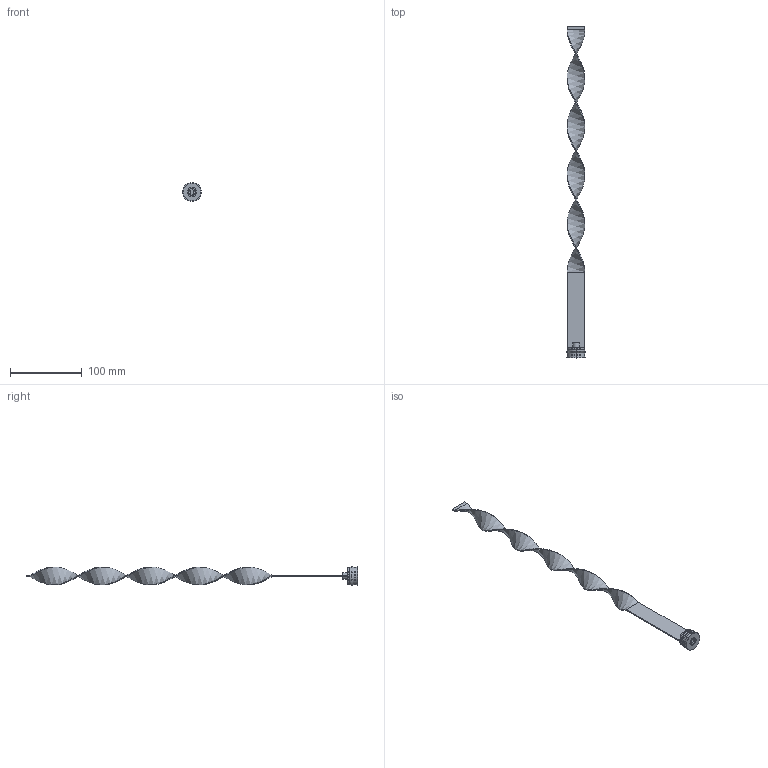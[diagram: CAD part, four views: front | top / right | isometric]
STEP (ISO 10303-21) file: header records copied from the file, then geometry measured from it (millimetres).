
FILE_DESCRIPTION (( 'STEP AP203' ), '1' );
FILE_NAME ('RLS-25Fx450.STEP', '2015-12-10T15:37:07', ( 'Balzi' ), ( '' ), 'SwSTEP 2.0', 'SolidWorks 2015', '' );
FILE_SCHEMA (( 'CONFIG_CONTROL_DESIGN' ));
Length unit declared in the file: millimetre
Products named in the file (1): RLS-25Fx450
Bounding box: 26.5 x 464 x 26.5 mm (x, y, z)
Volume: 23659.9 mm3; surface area: 27512.5 mm2
Topology: 1 solids, 1 shells, 83 faces, 193 edges, 117 vertices
Faces by surface type: plane 35, cone 19, cylinder 17, torus 8, bspline 4
Entity records: 4697 total; most frequent: CARTESIAN_POINT 2740, DIRECTION 402, ORIENTED_EDGE 386, EDGE_CURVE 193, AXIS2_PLACEMENT_3D 151, VERTEX_POINT 117, VECTOR 100, LINE 100
